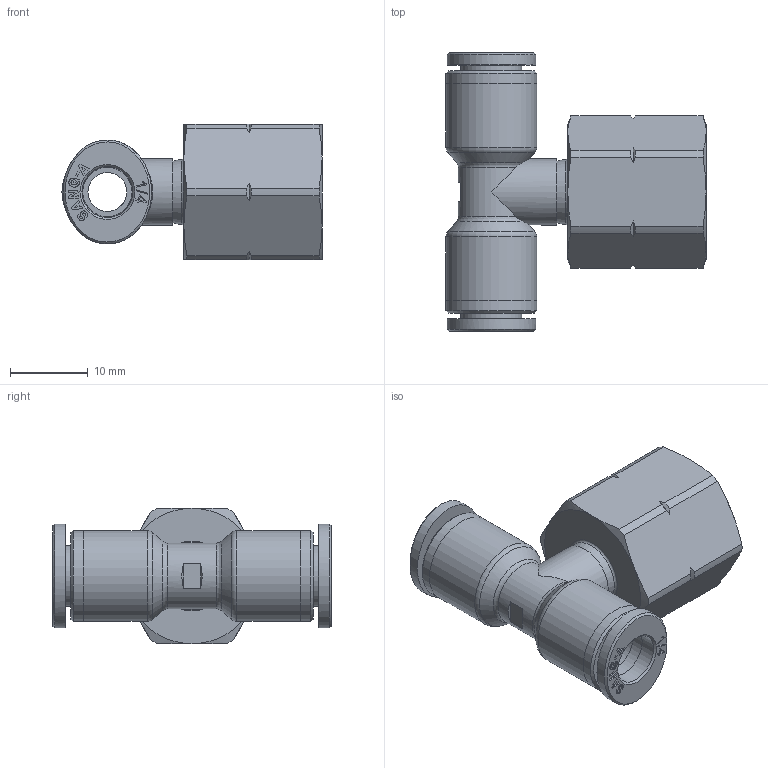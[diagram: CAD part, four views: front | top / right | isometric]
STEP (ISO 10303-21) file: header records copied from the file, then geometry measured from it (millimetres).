
FILE_DESCRIPTION((''),'2;1');
FILE_NAME('C:\Users\user0117\Desktop\김진일\홈페이지\1_4\Internet\G-FITTING INCH (STEP)\GPTF 1_4-N02U.stp','2020-01-15T16:50:04',('user0117'),(''),'Autodesk Inventor 2013','Autodesk Inventor 2013','');
FILE_SCHEMA(('AUTOMOTIVE_DESIGN { 1 0 10303 214 1 1 1 1 }'));
Length unit declared in the file: millimetre
Products named in the file (7): GPTF 1_4-N02U; GPLF BODY 1-4 N02(BRASS); GPT 1_4 PLASTIC ASSY; GPT BODY 1-4(PLASTIC); G-COLLAR G1-4L; COLLAR G1-4L; SLEEVE G1-4
Assembly tree (7 placements, depth 4):
  GPTF 1_4-N02U
    GPLF BODY 1-4 N02(BRASS)
    GPT 1_4 PLASTIC ASSY
      GPT BODY 1-4(PLASTIC)
      G-COLLAR G1-4L  x2
        COLLAR G1-4L
        SLEEVE G1-4
Bounding box: 33.5 x 35.9 x 17.46 mm (x, y, z)
Volume: 5870.6 mm3; surface area: 5200.8 mm2
Topology: 6 solids, 6 shells, 335 faces, 855 edges, 564 vertices
Faces by surface type: plane 207, bspline 44, cylinder 42, cone 37, torus 5
Full cylindrical faces by diameter (mm): 4 x1, 5 x3, 6.55 x6, 7.85 x2, 8.5 x1, 11.7 x4
Entity records: 6573 total; most frequent: CARTESIAN_POINT 1666, ORIENTED_EDGE 970, DIRECTION 957, EDGE_CURVE 485, AXIS2_PLACEMENT_3D 336, VERTEX_POINT 333, VECTOR 285, LINE 285
